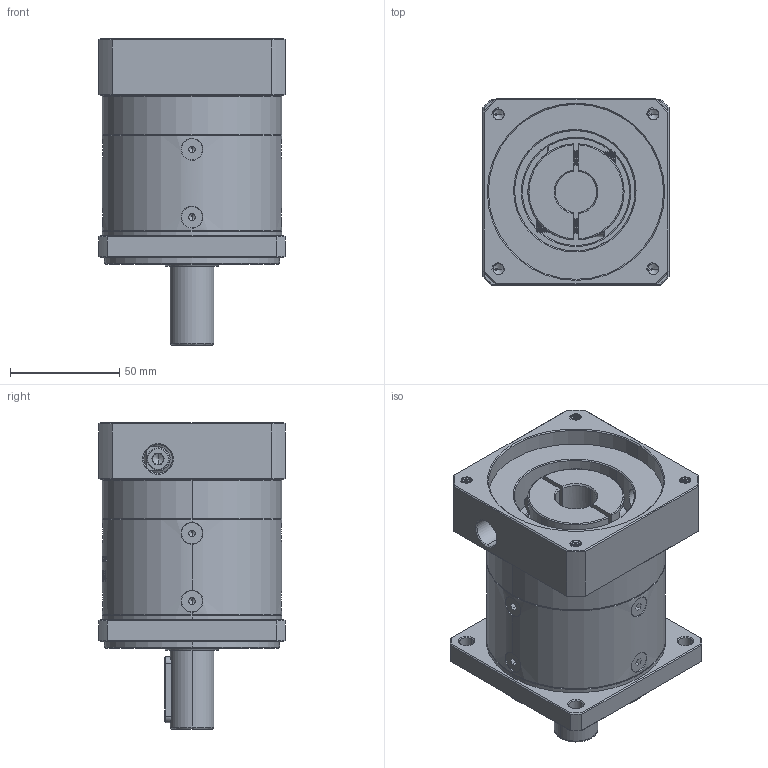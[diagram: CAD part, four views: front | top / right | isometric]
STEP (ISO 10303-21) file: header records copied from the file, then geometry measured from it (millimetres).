
FILE_DESCRIPTION (( 'STEP AP214' ), '1' );
FILE_NAME ('ZF80-D20-L1-19-80-100-M6.step', '2022-05-08T09:14:38', ( '' ), ( 'Microsoft' ), 'SwSTEP 2.0', 'SolidWorks 2016', '' );
FILE_SCHEMA (( 'AUTOMOTIVE_DESIGN' ));
Length unit declared in the file: millimetre
Products named in the file (1): ZF80-D20-L1-19-80-100-M6
Bounding box: 85 x 85 x 140 mm (x, y, z)
Volume: 534687.8 mm3; surface area: 88989.1 mm2
Topology: 13 solids, 13 shells, 1980 faces, 5119 edges, 3233 vertices
Faces by surface type: plane 896, cylinder 408, cone 339, bspline 320, torus 17
Entity records: 107709 total; most frequent: CARTESIAN_POINT 41261, ORIENTED_EDGE 10178, DIRECTION 8025, EDGE_CURVE 5089, VERTEX_POINT 3233, LINE 2763, VECTOR 2763, AXIS2_PLACEMENT_3D 2631
